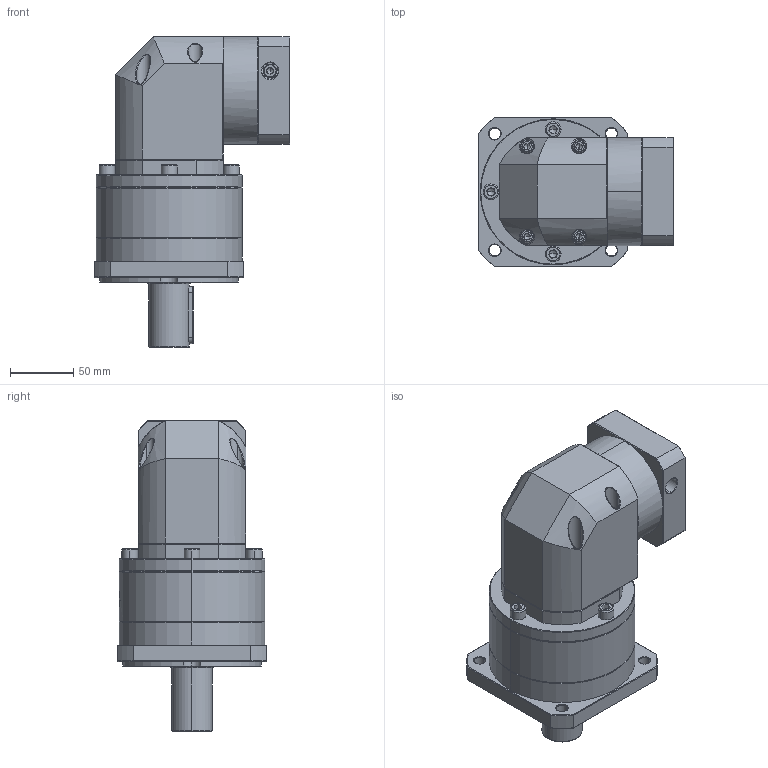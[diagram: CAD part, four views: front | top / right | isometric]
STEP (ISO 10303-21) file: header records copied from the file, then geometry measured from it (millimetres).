
FILE_DESCRIPTION (( 'STEP AP214' ), '1' );
FILE_NAME ('ZFR120A-D32-L2-P2-14-60-75-M5.step', '2023-08-27T09:18:06', ( '' ), ( '' ), 'SwSTEP 2.0', 'SolidWorks 2016', '' );
FILE_SCHEMA (( 'AUTOMOTIVE_DESIGN' ));
Length unit declared in the file: millimetre
Products named in the file (1): ZFR120A-D32-L2-P2-14-60-75-M5
Bounding box: 154.1 x 118 x 245 mm (x, y, z)
Volume: 1876505.5 mm3; surface area: 171264.2 mm2
Topology: 6 solids, 6 shells, 2405 faces, 6284 edges, 3984 vertices
Faces by surface type: plane 1174, cylinder 452, bspline 443, cone 322, torus 14
Entity records: 130381 total; most frequent: CARTESIAN_POINT 50578, ORIENTED_EDGE 12476, DIRECTION 9187, EDGE_CURVE 6238, VERTEX_POINT 3984, VECTOR 3387, LINE 3387, AXIS2_PLACEMENT_3D 2900
